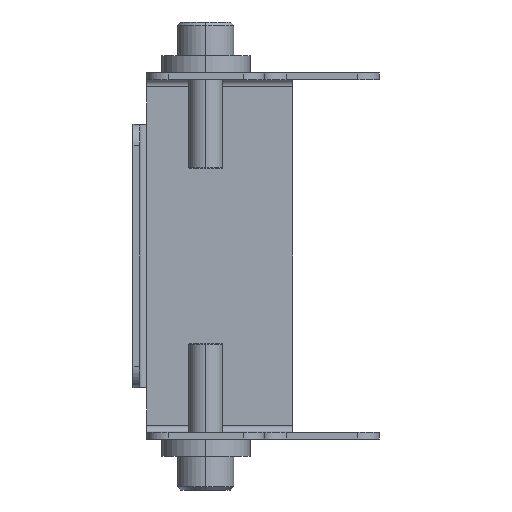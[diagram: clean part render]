
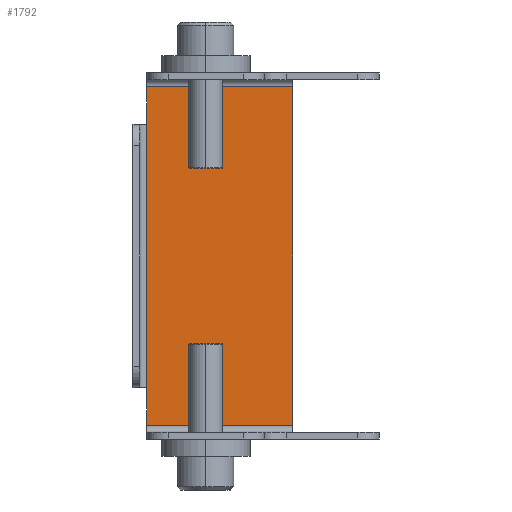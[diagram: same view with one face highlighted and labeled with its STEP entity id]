
A CAD part, left-side view. The second image highlights one B-rep face of the part: STEP entity #1792.
In plain terms, the highlighted planar face has unit normal (-1, 0, 0) as drawn and (0, 0, 1) by its records, which use the part's own axes.
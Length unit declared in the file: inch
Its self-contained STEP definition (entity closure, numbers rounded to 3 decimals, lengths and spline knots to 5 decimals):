
#349=DIRECTION('',(0.,1.,0.));
#350=VECTOR('',#349,1.02211);
#351=CARTESIAN_POINT('',(-1.1845,-0.51106,0.));
#352=LINE('',#351,#350);
#361=DIRECTION('',(1.,0.,0.));
#362=VECTOR('',#361,0.2645);
#363=CARTESIAN_POINT('',(-1.1845,0.51106,0.));
#364=LINE('',#363,#362);
#379=DIRECTION('',(1.,0.,0.));
#380=VECTOR('',#379,1.84);
#381=CARTESIAN_POINT('',(-0.92,0.51106,0.));
#382=LINE('',#381,#380);
#457=DIRECTION('',(1.,0.,0.));
#458=VECTOR('',#457,0.2645);
#459=CARTESIAN_POINT('',(0.92,0.51106,0.));
#460=LINE('',#459,#458);
#479=DIRECTION('',(0.,-1.,0.));
#480=VECTOR('',#479,1.02211);
#481=CARTESIAN_POINT('',(1.1845,0.51106,0.));
#482=LINE('',#481,#480);
#819=DIRECTION('',(-1.,0.,0.));
#820=VECTOR('',#819,2.369);
#821=CARTESIAN_POINT('',(1.1845,-0.51106,0.));
#822=LINE('',#821,#820);
#1093=CARTESIAN_POINT('',(-0.92,0.51106,0.));
#1094=CARTESIAN_POINT('',(0.92,0.51106,0.));
#1095=VERTEX_POINT('',#1093);
#1096=VERTEX_POINT('',#1094);
#1142=CARTESIAN_POINT('',(1.1845,-0.51106,0.));
#1144=VERTEX_POINT('',#1142);
#1191=CARTESIAN_POINT('',(-1.1845,-0.51106,0.));
#1192=VERTEX_POINT('',#1191);
#1200=CARTESIAN_POINT('',(-1.1845,0.51106,0.));
#1202=VERTEX_POINT('',#1200);
#1335=CARTESIAN_POINT('',(1.1845,0.51106,0.));
#1336=VERTEX_POINT('',#1335);
#1774=CARTESIAN_POINT('',(0.,0.,0.));
#1775=DIRECTION('',(0.,0.,1.));
#1776=DIRECTION('',(1.,0.,0.));
#1777=AXIS2_PLACEMENT_3D('',#1774,#1775,#1776);
#1778=PLANE('',#1777);
#1780=ORIENTED_EDGE('',*,*,#1779,.T.);
#1782=ORIENTED_EDGE('',*,*,#1781,.T.);
#1784=ORIENTED_EDGE('',*,*,#1783,.T.);
#1786=ORIENTED_EDGE('',*,*,#1785,.T.);
#1788=ORIENTED_EDGE('',*,*,#1787,.T.);
#1789=ORIENTED_EDGE('',*,*,#1765,.T.);
#1790=EDGE_LOOP('',(#1780,#1782,#1784,#1786,#1788,#1789));
#1791=FACE_OUTER_BOUND('',#1790,.F.);
#1765=EDGE_CURVE('',#1192,#1202,#352,.T.);
#1779=EDGE_CURVE('',#1202,#1095,#364,.T.);
#1781=EDGE_CURVE('',#1095,#1096,#382,.T.);
#1783=EDGE_CURVE('',#1096,#1336,#460,.T.);
#1785=EDGE_CURVE('',#1336,#1144,#482,.T.);
#1787=EDGE_CURVE('',#1144,#1192,#822,.T.);
#1792=ADVANCED_FACE('',(#1791),#1778,.T.);
